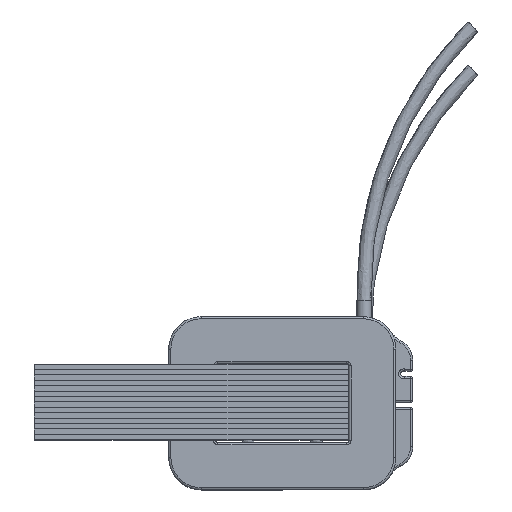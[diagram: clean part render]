
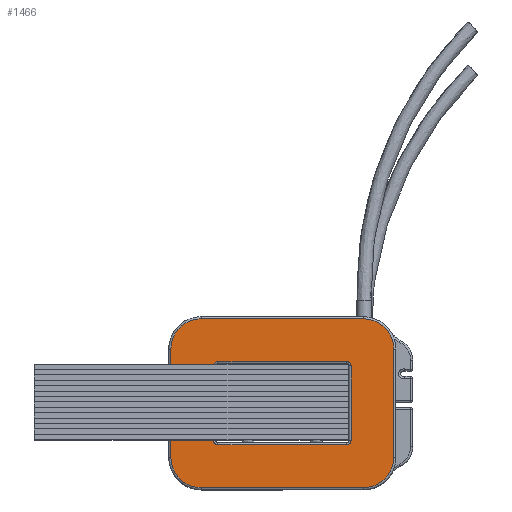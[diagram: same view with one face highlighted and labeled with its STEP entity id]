
A CAD part, top view. The second image highlights one B-rep face of the part: STEP entity #1466.
In plain terms, the highlighted planar face has unit normal (0, 0, 1).
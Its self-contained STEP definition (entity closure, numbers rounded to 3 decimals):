
#47 = VERTEX_POINT ( 'NONE', #6293 ) ;
#56 = ORIENTED_EDGE ( 'NONE', *, *, #12089, .T. ) ;
#75 = EDGE_CURVE ( 'NONE', #7973, #8241, #2897, .T. ) ;
#81 = VERTEX_POINT ( 'NONE', #2533 ) ;
#154 = FACE_BOUND ( 'NONE', #11681, .T. ) ;
#230 = CARTESIAN_POINT ( 'NONE',  ( 13.3, 1., 9.8 ) ) ;
#292 = EDGE_CURVE ( 'NONE', #5050, #7359, #6251, .T. ) ;
#305 = VECTOR ( 'NONE', #5434, 1000. ) ;
#350 = ORIENTED_EDGE ( 'NONE', *, *, #1970, .T. ) ;
#358 = CARTESIAN_POINT ( 'NONE',  ( 17.65, 9.85, 9.8 ) ) ;
#395 = EDGE_CURVE ( 'NONE', #5050, #5955, #9578, .T. ) ;
#452 = AXIS2_PLACEMENT_3D ( 'NONE', #3198, #9981, #4186 ) ;
#560 = ORIENTED_EDGE ( 'NONE', *, *, #12180, .F. ) ;
#588 = CARTESIAN_POINT ( 'NONE',  ( 13.7, 1.4, 9.8 ) ) ;
#605 = LINE ( 'NONE', #8102, #4583 ) ;
#707 = CARTESIAN_POINT ( 'NONE',  ( 1., 1.4, 9.8 ) ) ;
#868 = EDGE_CURVE ( 'NONE', #2492, #2777, #12143, .T. ) ;
#1025 = EDGE_CURVE ( 'NONE', #3867, #12280, #12286, .T. ) ;
#1175 = VERTEX_POINT ( 'NONE', #7655 ) ;
#1315 = DIRECTION ( 'NONE',  ( 1., 0., 0. ) ) ;
#1411 = DIRECTION ( 'NONE',  ( 0., 0., 1. ) ) ;
#1438 = ORIENTED_EDGE ( 'NONE', *, *, #4833, .T. ) ;
#1466 = ADVANCED_FACE ( 'NONE', ( #154, #5354 ), #1580, .F. ) ;
#1580 = PLANE ( 'NONE',  #10460 ) ;
#1710 = LINE ( 'NONE', #4632, #11705 ) ;
#1970 = EDGE_CURVE ( 'NONE', #81, #10201, #4744, .T. ) ;
#2240 = EDGE_CURVE ( 'NONE', #1175, #11309, #605, .T. ) ;
#2414 = EDGE_LOOP ( 'NONE', ( #5971, #11210, #8121, #350, #8019, #6653, #1438, #9879 ) ) ;
#2492 = VERTEX_POINT ( 'NONE', #707 ) ;
#2533 = CARTESIAN_POINT ( 'NONE',  ( 14.85, 12.65, 9.8 ) ) ;
#2730 = DIRECTION ( 'NONE',  ( 0., 0., 1. ) ) ;
#2758 = AXIS2_PLACEMENT_3D ( 'NONE', #5148, #11907, #6122 ) ;
#2777 = VERTEX_POINT ( 'NONE', #6283 ) ;
#2897 = LINE ( 'NONE', #6413, #305 ) ;
#3078 = VECTOR ( 'NONE', #5832, 1000. ) ;
#3198 = CARTESIAN_POINT ( 'NONE',  ( 14.85, 9.85, 9.8 ) ) ;
#3210 = CARTESIAN_POINT ( 'NONE',  ( -2.95, -0.15, 9.8 ) ) ;
#3481 = CARTESIAN_POINT ( 'NONE',  ( 14.85, -2.95, 9.8 ) ) ;
#3533 = CARTESIAN_POINT ( 'NONE',  ( 14.85, 9.85, 9.8 ) ) ;
#3552 = CIRCLE ( 'NONE', #10775, 2.8 ) ;
#3640 = AXIS2_PLACEMENT_3D ( 'NONE', #9765, #3956, #10720 ) ;
#3660 = AXIS2_PLACEMENT_3D ( 'NONE', #10025, #4230, #11000 ) ;
#3720 = DIRECTION ( 'NONE',  ( 0., 0., 1. ) ) ;
#3850 = CIRCLE ( 'NONE', #2758, 0.4 ) ;
#3867 = VERTEX_POINT ( 'NONE', #6974 ) ;
#3956 = DIRECTION ( 'NONE',  ( 0., 0., 1. ) ) ;
#4186 = DIRECTION ( 'NONE',  ( -1., 0., 0. ) ) ;
#4230 = DIRECTION ( 'NONE',  ( 0., 0., 1. ) ) ;
#4424 = VECTOR ( 'NONE', #7141, 1000. ) ;
#4524 = DIRECTION ( 'NONE',  ( -1., 0., 0. ) ) ;
#4583 = VECTOR ( 'NONE', #1315, 1000. ) ;
#4632 = CARTESIAN_POINT ( 'NONE',  ( 14.85, -2.95, 9.8 ) ) ;
#4744 = LINE ( 'NONE', #8143, #9586 ) ;
#4833 = EDGE_CURVE ( 'NONE', #8241, #47, #3552, .T. ) ;
#4865 = VECTOR ( 'NONE', #9393, 1000. ) ;
#5050 = VERTEX_POINT ( 'NONE', #230 ) ;
#5148 = CARTESIAN_POINT ( 'NONE',  ( 13.3, 8.3, 9.8 ) ) ;
#5354 = FACE_OUTER_BOUND ( 'NONE', #2414, .T. ) ;
#5434 = DIRECTION ( 'NONE',  ( 0., -1., 0. ) ) ;
#5559 = CARTESIAN_POINT ( 'NONE',  ( -2.95, 9.85, 9.8 ) ) ;
#5811 = CIRCLE ( 'NONE', #11291, 0.4 ) ;
#5827 = DIRECTION ( 'NONE',  ( 0., 0., 1. ) ) ;
#5832 = DIRECTION ( 'NONE',  ( 0., -1., 0. ) ) ;
#5914 = EDGE_CURVE ( 'NONE', #47, #7865, #1710, .T. ) ;
#5955 = VERTEX_POINT ( 'NONE', #8564 ) ;
#5971 = ORIENTED_EDGE ( 'NONE', *, *, #9570, .T. ) ;
#5973 = LINE ( 'NONE', #12519, #3078 ) ;
#6122 = DIRECTION ( 'NONE',  ( -1., 0., 0. ) ) ;
#6198 = ORIENTED_EDGE ( 'NONE', *, *, #2240, .T. ) ;
#6251 = CIRCLE ( 'NONE', #9098, 0.4 ) ;
#6255 = EDGE_CURVE ( 'NONE', #1175, #2777, #5811, .T. ) ;
#6283 = CARTESIAN_POINT ( 'NONE',  ( 1., 8.3, 9.8 ) ) ;
#6293 = CARTESIAN_POINT ( 'NONE',  ( -0.15, -2.95, 9.8 ) ) ;
#6413 = CARTESIAN_POINT ( 'NONE',  ( -2.95, 9.85, 9.8 ) ) ;
#6503 = CARTESIAN_POINT ( 'NONE',  ( 13.3, 8.7, 9.8 ) ) ;
#6532 = CARTESIAN_POINT ( 'NONE',  ( 13.7, 8.3, 9.8 ) ) ;
#6653 = ORIENTED_EDGE ( 'NONE', *, *, #75, .T. ) ;
#6689 = EDGE_CURVE ( 'NONE', #10201, #7973, #12152, .T. ) ;
#6717 = AXIS2_PLACEMENT_3D ( 'NONE', #9518, #3720, #10503 ) ;
#6974 = CARTESIAN_POINT ( 'NONE',  ( 17.65, -0.15, 9.8 ) ) ;
#7076 = CARTESIAN_POINT ( 'NONE',  ( -0.15, 12.65, 9.8 ) ) ;
#7141 = DIRECTION ( 'NONE',  ( 0., 1., 0. ) ) ;
#7230 = CARTESIAN_POINT ( 'NONE',  ( 1.4, 8.3, 9.8 ) ) ;
#7359 = VERTEX_POINT ( 'NONE', #588 ) ;
#7544 = DIRECTION ( 'NONE',  ( 1., 0., 0. ) ) ;
#7655 = CARTESIAN_POINT ( 'NONE',  ( 1.4, 8.7, 9.8 ) ) ;
#7742 = CARTESIAN_POINT ( 'NONE',  ( 14.85, 1., 9.8 ) ) ;
#7865 = VERTEX_POINT ( 'NONE', #3481 ) ;
#7901 = VECTOR ( 'NONE', #9091, 1000. ) ;
#7973 = VERTEX_POINT ( 'NONE', #5559 ) ;
#8005 = VERTEX_POINT ( 'NONE', #6532 ) ;
#8019 = ORIENTED_EDGE ( 'NONE', *, *, #6689, .T. ) ;
#8102 = CARTESIAN_POINT ( 'NONE',  ( 14.85, 8.7, 9.8 ) ) ;
#8121 = ORIENTED_EDGE ( 'NONE', *, *, #11777, .T. ) ;
#8143 = CARTESIAN_POINT ( 'NONE',  ( 14.85, 12.65, 9.8 ) ) ;
#8181 = DIRECTION ( 'NONE',  ( -1., 0., 0. ) ) ;
#8202 = DIRECTION ( 'NONE',  ( -1., 0., 0. ) ) ;
#8241 = VERTEX_POINT ( 'NONE', #3210 ) ;
#8411 = CARTESIAN_POINT ( 'NONE',  ( 17.65, 9.85, 9.8 ) ) ;
#8556 = DIRECTION ( 'NONE',  ( -1., 0., 0. ) ) ;
#8564 = CARTESIAN_POINT ( 'NONE',  ( 1.4, 1., 9.8 ) ) ;
#8713 = CIRCLE ( 'NONE', #452, 2.8 ) ;
#9091 = DIRECTION ( 'NONE',  ( -1., 0., 0. ) ) ;
#9098 = AXIS2_PLACEMENT_3D ( 'NONE', #9520, #2730, #8556 ) ;
#9104 = DIRECTION ( 'NONE',  ( -1., 0., 0. ) ) ;
#9393 = DIRECTION ( 'NONE',  ( 0., 1., 0. ) ) ;
#9444 = ORIENTED_EDGE ( 'NONE', *, *, #868, .T. ) ;
#9518 = CARTESIAN_POINT ( 'NONE',  ( 14.85, -0.15, 9.8 ) ) ;
#9520 = CARTESIAN_POINT ( 'NONE',  ( 13.3, 1.4, 9.8 ) ) ;
#9570 = EDGE_CURVE ( 'NONE', #7865, #3867, #11013, .T. ) ;
#9578 = LINE ( 'NONE', #7742, #7901 ) ;
#9586 = VECTOR ( 'NONE', #8181, 1000. ) ;
#9672 = ORIENTED_EDGE ( 'NONE', *, *, #10057, .F. ) ;
#9765 = CARTESIAN_POINT ( 'NONE',  ( 1.4, 1.4, 9.8 ) ) ;
#9879 = ORIENTED_EDGE ( 'NONE', *, *, #5914, .T. ) ;
#9895 = ORIENTED_EDGE ( 'NONE', *, *, #395, .T. ) ;
#9981 = DIRECTION ( 'NONE',  ( 0., 0., 1. ) ) ;
#10025 = CARTESIAN_POINT ( 'NONE',  ( -0.15, 9.85, 9.8 ) ) ;
#10057 = EDGE_CURVE ( 'NONE', #2492, #5955, #12075, .T. ) ;
#10201 = VERTEX_POINT ( 'NONE', #7076 ) ;
#10326 = DIRECTION ( 'NONE',  ( 0., 0., -1. ) ) ;
#10460 = AXIS2_PLACEMENT_3D ( 'NONE', #3533, #10326, #4524 ) ;
#10503 = DIRECTION ( 'NONE',  ( -1., 0., 0. ) ) ;
#10720 = DIRECTION ( 'NONE',  ( -1., 0., 0. ) ) ;
#10773 = ORIENTED_EDGE ( 'NONE', *, *, #292, .F. ) ;
#10775 = AXIS2_PLACEMENT_3D ( 'NONE', #11618, #5827, #9104 ) ;
#11000 = DIRECTION ( 'NONE',  ( -1., 0., 0. ) ) ;
#11005 = CARTESIAN_POINT ( 'NONE',  ( 1., 9.85, 9.8 ) ) ;
#11013 = CIRCLE ( 'NONE', #6717, 2.8 ) ;
#11210 = ORIENTED_EDGE ( 'NONE', *, *, #1025, .T. ) ;
#11291 = AXIS2_PLACEMENT_3D ( 'NONE', #7230, #1411, #8202 ) ;
#11309 = VERTEX_POINT ( 'NONE', #6503 ) ;
#11438 = ORIENTED_EDGE ( 'NONE', *, *, #6255, .F. ) ;
#11618 = CARTESIAN_POINT ( 'NONE',  ( -0.15, -0.15, 9.8 ) ) ;
#11681 = EDGE_LOOP ( 'NONE', ( #560, #56, #10773, #9895, #9672, #9444, #11438, #6198 ) ) ;
#11705 = VECTOR ( 'NONE', #7544, 1000. ) ;
#11777 = EDGE_CURVE ( 'NONE', #12280, #81, #8713, .T. ) ;
#11907 = DIRECTION ( 'NONE',  ( 0., 0., 1. ) ) ;
#12075 = CIRCLE ( 'NONE', #3640, 0.4 ) ;
#12089 = EDGE_CURVE ( 'NONE', #8005, #7359, #5973, .T. ) ;
#12143 = LINE ( 'NONE', #11005, #4424 ) ;
#12152 = CIRCLE ( 'NONE', #3660, 2.8 ) ;
#12180 = EDGE_CURVE ( 'NONE', #8005, #11309, #3850, .T. ) ;
#12280 = VERTEX_POINT ( 'NONE', #358 ) ;
#12286 = LINE ( 'NONE', #8411, #4865 ) ;
#12519 = CARTESIAN_POINT ( 'NONE',  ( 13.7, 9.85, 9.8 ) ) ;
